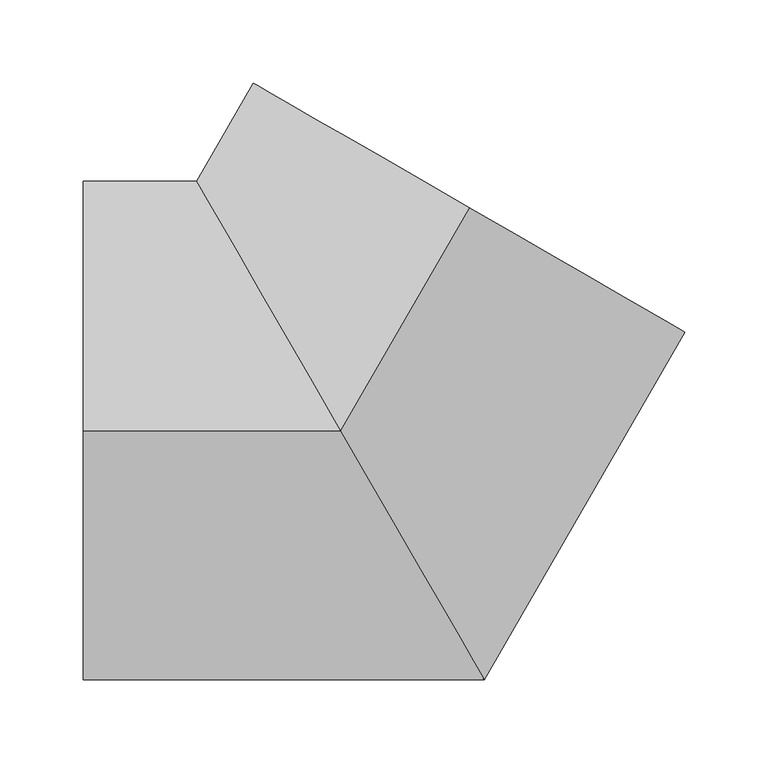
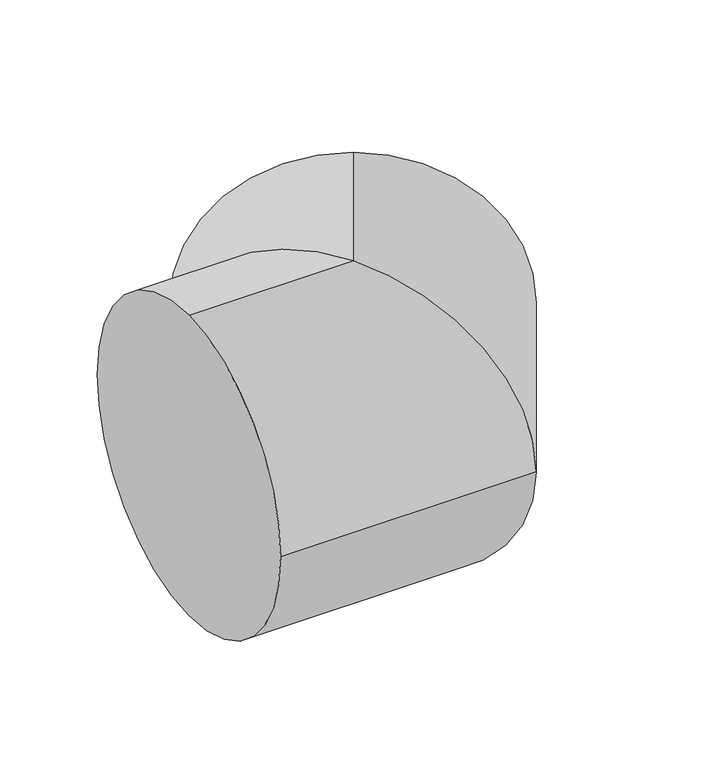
"""IFC4 building model written with IfcOpenShell, lengths in millimetres: duct fitting geometry, M_Отвод круглого сечения - Под углом : Стандартное."""

import ifcopenshell
import ifcopenshell.guid

model = None  # the IFC model being written
_history = None  # IfcOwnerHistory: only IFC2X3 demands one
_inside = {}  # id of a spatial element -> (the spatial element, [elements in it])
_under = {}  # id of a project, library or spatial element -> (it, [spatial elements below it])
_declared = {}  # id of a project -> (the project, [libraries it declares])
_typed = {}  # id of a type object -> (the type object, [elements of that type])
_made_of = {}  # id of a material, layer set ... -> (it, [elements and type objects made of it])


def new_model(schema):
    """Start an empty IFC model of exactly this schema.

    Asked for "IFC4X3", IfcOpenShell would pick the latest addendum, in which some entities
    have other attributes; the version numbers below select the first issue.
    IFC2X3 requires an IfcOwnerHistory on every rooted entity: one is made here for all.
    """
    global model, _history
    if schema == "IFC4X3":
        model = ifcopenshell.file(schema_version=(4, 3, 0, 0))
    else:
        model = ifcopenshell.file(schema=schema)
    _inside.clear()
    _under.clear()
    _declared.clear()
    _typed.clear()
    _made_of.clear()
    _history = None
    if model.schema == "IFC2X3":
        org = make("IfcOrganization", Name="unknown")
        user = make(
            "IfcPersonAndOrganization",
            ThePerson=make("IfcPerson", FamilyName="unknown"),
            TheOrganization=org,
        )
        app = make(
            "IfcApplication",
            ApplicationDeveloper=org,
            Version="unknown",
            ApplicationFullName="unknown",
            ApplicationIdentifier="unknown",
        )
        _history = make(
            "IfcOwnerHistory",
            OwningUser=user,
            OwningApplication=app,
            ChangeAction="ADDED",
            CreationDate=0,
        )
    return model


def make(cls, **values):
    """One entity of the class cls with the attributes given. An attribute that is None is left unset."""
    return model.create_entity(
        cls, **{name: value for name, value in values.items() if value is not None}
    )


def rooted(cls, **values):
    """An entity with a GlobalId (a new one), such as an element, a storey or a relation."""
    return make(cls, GlobalId=ifcopenshell.guid.new(), OwnerHistory=_history, **values)


def si_unit(unit_type, name, prefix=None):
    """IfcSIUnit, for example si_unit("LENGTHUNIT", "METRE", prefix="MILLI")."""
    return make("IfcSIUnit", UnitType=unit_type, Prefix=prefix, Name=name)


def assignment(units):
    """IfcUnitAssignment: the units of a project."""
    return None if units is None else make("IfcUnitAssignment", Units=units)


def point(xyz):
    """IfcCartesianPoint."""
    return None if xyz is None else make("IfcCartesianPoint", Coordinates=xyz)


def direction(xyz):
    """IfcDirection."""
    return None if xyz is None else make("IfcDirection", DirectionRatios=xyz)


def frame(location, z_axis=None, x_axis=None):
    """IfcAxis2Placement3D, a coordinate frame: its origin and axes. An axis left out is left unset."""
    return make(
        "IfcAxis2Placement3D",
        Location=point(location),
        Axis=direction(z_axis),
        RefDirection=direction(x_axis),
    )


def origin():
    """The frame at (0, 0, 0) with its axes left unset."""
    return frame((0.0, 0.0, 0.0))


def place(relative_to, where):
    """IfcLocalPlacement: puts the frame where relative to a parent placement (None: the world)."""
    return make(
        "IfcLocalPlacement", PlacementRelTo=relative_to, RelativePlacement=where
    )


def context(
    kind, dimensions, precision=None, world=None, true_north=None, identifier=None
):
    """IfcGeometricRepresentationContext, for example the 3D "Model" context."""
    return make(
        "IfcGeometricRepresentationContext",
        ContextIdentifier=identifier,
        ContextType=kind,
        CoordinateSpaceDimension=dimensions,
        Precision=precision,
        WorldCoordinateSystem=world,
        TrueNorth=true_north,
    )


def project(units=None, contexts=None):
    """IfcProject with its units and contexts."""
    return rooted(
        "IfcProject",
        Name="project",
        RepresentationContexts=contexts,
        UnitsInContext=assignment(units),
    )


def spatial(cls, under=None, at=None, **own):
    """A site, building, storey or space (cls), placed at a placement, below another one or the project."""
    s = rooted(cls, ObjectPlacement=at, **own)
    if under is not None:
        _under.setdefault(under.id(), (under, []))[1].append(s)
    return s


def circle_curve(where, radius):
    """IfcCircle in the frame where."""
    return make("IfcCircle", Position=where, Radius=radius)


def ellipse_curve(where, semi_axis1, semi_axis2):
    """IfcEllipse in the frame where."""
    return make(
        "IfcEllipse", Position=where, SemiAxis1=semi_axis1, SemiAxis2=semi_axis2
    )


def shape(context_of_items, identifier, shape_type, items):
    """IfcShapeRepresentation: the items that make up one representation, for example the "Body"."""
    return make(
        "IfcShapeRepresentation",
        ContextOfItems=context_of_items,
        RepresentationIdentifier=identifier,
        RepresentationType=shape_type,
        Items=items,
    )


def source(mapping_origin, context_of_items, identifier, shape_type, items):
    """IfcRepresentationMap: a shape defined once, which mapped items show again and again."""
    return make(
        "IfcRepresentationMap",
        MappingOrigin=mapping_origin,
        MappedRepresentation=shape(context_of_items, identifier, shape_type, items),
    )


def transform(
    local_origin,
    x_axis=None,
    y_axis=None,
    z_axis=None,
    scale=None,
    scale2=None,
    scale3=None,
    uniform=True,
):
    """IfcCartesianTransformationOperator3D, or its non-uniform kind. x_axis, y_axis, z_axis: its Axis1, 2, 3."""
    if uniform:
        return make(
            "IfcCartesianTransformationOperator3D",
            Axis1=direction(x_axis),
            Axis2=direction(y_axis),
            LocalOrigin=point(local_origin),
            Scale=scale,
            Axis3=direction(z_axis),
        )
    return make(
        "IfcCartesianTransformationOperator3DnonUniform",
        Axis1=direction(x_axis),
        Axis2=direction(y_axis),
        LocalOrigin=point(local_origin),
        Scale=scale,
        Axis3=direction(z_axis),
        Scale2=scale2,
        Scale3=scale3,
    )


def mapped(mapping_source, mapping_target):
    """IfcMappedItem: shows the shape of a source again, moved by a transform."""
    return make(
        "IfcMappedItem", MappingSource=mapping_source, MappingTarget=mapping_target
    )


def made_of(thing, what):
    """Note that an element or type object is made of a material, layer set ...; save() writes the relation."""
    if what is not None:
        _made_of.setdefault(what.id(), (what, []))[1].append(thing)
    return thing


def element(
    cls,
    number,
    at=None,
    inside=None,
    cuts=None,
    type_object=None,
    material=None,
    context=None,
    identifier="Body",
    shape_type=None,
    held_by="IfcProductDefinitionShape",
    body=None,
    shapes=None,
    **own,
):
    """One element of the class cls, such as IfcWall. Its Tag is "e" and its number.

    at: its placement. inside: the storey or other place that contains it. cuts: it is an
    opening in that element (IfcRelVoidsElement). A single representation is given by context,
    identifier, shape_type and body (its items); several are given by shapes. held_by: the class
    of the entity that holds the representations. save() writes the other relations.
    """
    e = rooted(cls, Tag="e%d" % number, ObjectPlacement=at, **own)
    if body is not None:
        shapes = [shape(context, identifier, shape_type, body)]
    if shapes is not None:
        e.Representation = make(held_by, Representations=shapes)
    if inside is not None:
        _inside.setdefault(inside.id(), (inside, []))[1].append(e)
    if cuts is not None:
        rooted(
            "IfcRelVoidsElement", RelatingBuildingElement=cuts, RelatedOpeningElement=e
        )
    if type_object is not None:
        _typed.setdefault(type_object.id(), (type_object, []))[1].append(e)
    return made_of(e, material)


def aggregate(whole, parts):
    """IfcRelAggregates: a whole, such as a stair, and the parts it consists of."""
    return rooted("IfcRelAggregates", RelatingObject=whole, RelatedObjects=parts)


def save(model, path):
    """Write the relations noted so far, then the file.

    IfcRelAggregates (storeys below a building ...), IfcRelContainedInSpatialStructure (elements
    in a storey), IfcRelDefinesByType, IfcRelAssociatesMaterial and IfcRelDeclares: one each for
    every whole, place, type object, material and project.
    """
    for whole, parts in _under.values():
        aggregate(whole, parts)
    for where, things in _inside.values():
        rooted(
            "IfcRelContainedInSpatialStructure",
            RelatedElements=things,
            RelatingStructure=where,
        )
    for kind, things in _typed.values():
        rooted("IfcRelDefinesByType", RelatedObjects=things, RelatingType=kind)
    for what, things in _made_of.values():
        rooted("IfcRelAssociatesMaterial", RelatedObjects=things, RelatingMaterial=what)
    for by, libraries in _declared.values():
        rooted("IfcRelDeclares", RelatingContext=by, RelatedDefinitions=libraries)
    model.write(path)


def plane_surface(at):
    """IfcPlane: the flat surface through the origin of the frame at, square to its z axis."""
    return make("IfcPlane", Position=at)


def cylinder_surface(at, radius):
    """IfcCylindricalSurface: all points at the distance radius from the z axis of the frame at."""
    return make("IfcCylindricalSurface", Position=at, Radius=radius)


def advanced_brep(points, edges, surfaces, faces):
    """IfcAdvancedBrep: a solid bounded by faces that lie on surfaces and meet in shared edges.

    An edge is (start, end): straight between two places in points (the first is 0);
    or (start, end, curve); or (start, end, curve, False) where it runs against its curve.
    A face is (place in surfaces, loops), or (place, loops, False) where it looks against
    its surface's normal. A loop lists edges by number (the first is 1), with a minus sign
    where the edge is run from its end to its start. The first loop is the outer one.
    """
    corners = [point(p) for p in points]
    vertices = [make("IfcVertexPoint", VertexGeometry=c) for c in corners]
    made = []
    for start, end, *more in edges:
        made.append(
            make(
                "IfcEdgeCurve",
                EdgeStart=vertices[start],
                EdgeEnd=vertices[end],
                EdgeGeometry=more[0] if more else make("IfcPolyline", Points=[corners[start], corners[end]]),
                SameSense=more[1] if len(more) > 1 else True,
            )
        )
    hull = []
    for where, loops, *sense in faces:
        bounds = []
        for j, loop in enumerate(loops):
            ring = [make("IfcOrientedEdge", EdgeElement=made[abs(k) - 1], Orientation=k > 0) for k in loop]
            bounds.append(
                make(
                    "IfcFaceOuterBound" if j == 0 else "IfcFaceBound",
                    Bound=make("IfcEdgeLoop", EdgeList=ring),
                    Orientation=True,
                )
            )
        hull.append(make("IfcAdvancedFace", Bounds=bounds, FaceSurface=surfaces[where], SameSense=sense[0] if sense else True))
    return make("IfcAdvancedBrep", Outer=make("IfcClosedShell", CfsFaces=hull))


def duct_fitting_fdeae395(model_context):
    return source(origin(), model_context, "Body", "AdvancedBrep", [
        advanced_brep(
        [(-154.9038106, 0.0, 150.0), (-154.9038106, 150.0, 0.0), (-154.9038106, 0.0, -150.0), (-154.9038106, -150.0, 0.0), (0.0, 0.0, 150.0), (-86.6025404, 150.0, 0.0), (0.0, 0.0, -150.0), (86.6025404, -150.0, 0.0), (77.4519053, 134.1506351, 150.0), (207.3557159, 59.1506351, 0.0), (77.4519053, 134.1506351, -150.0), (-52.4519053, 209.1506351, 0.0)],
        [
            (0, 1, circle_curve(frame((-154.9038106, 0.0, 0.0), z_axis=(-1.0, 0.0, 0.0), x_axis=(0.0, 1.0, 0.0)), 150.0)),
            (1, 2, circle_curve(frame((-154.9038106, 0.0, 0.0), z_axis=(-1.0, 0.0, 0.0), x_axis=(0.0, 1.0, 0.0)), 150.0)),
            (2, 3, circle_curve(frame((-154.9038106, 0.0, 0.0), z_axis=(-1.0, 0.0, 0.0), x_axis=(0.0, 1.0, 0.0)), 150.0)),
            (3, 0, circle_curve(frame((-154.9038106, 0.0, 0.0), z_axis=(-1.0, 0.0, 0.0), x_axis=(0.0, 1.0, 0.0)), 150.0)),
            (0, 4),
            (4, 5, ellipse_curve(frame((0.0, 0.0, 0.0), z_axis=(-0.8660254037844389, -0.49999999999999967, 0.0), x_axis=(-0.49999999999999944, 0.8660254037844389, 0.0)), 173.2050808, 150.0)),
            (5, 1),
            (5, 6, ellipse_curve(frame((0.0, 0.0, 0.0), z_axis=(-0.8660254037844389, -0.49999999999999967, 0.0), x_axis=(-0.49999999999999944, 0.8660254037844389, 0.0)), 173.2050808, 150.0)),
            (6, 2),
            (6, 7, ellipse_curve(frame((0.0, 0.0, 0.0), z_axis=(-0.8660254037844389, -0.49999999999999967, 0.0), x_axis=(-0.49999999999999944, 0.8660254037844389, 0.0)), 173.2050808, 150.0)),
            (7, 3),
            (7, 4, ellipse_curve(frame((0.0, 0.0, 0.0), z_axis=(-0.8660254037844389, -0.49999999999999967, 0.0), x_axis=(-0.49999999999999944, 0.8660254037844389, 0.0)), 173.2050808, 150.0)),
            (8, 9, circle_curve(frame((77.4519053, 134.1506351, 0.0), z_axis=(0.500000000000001, 0.8660254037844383, 0.0), x_axis=(-0.866025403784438, 0.5000000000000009, 0.0)), 150.0)),
            (9, 10, circle_curve(frame((77.4519053, 134.1506351, 0.0), z_axis=(0.500000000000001, 0.8660254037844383, 0.0), x_axis=(-0.866025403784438, 0.5000000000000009, 0.0)), 150.0)),
            (10, 11, circle_curve(frame((77.4519053, 134.1506351, 0.0), z_axis=(0.500000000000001, 0.8660254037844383, 0.0), x_axis=(-0.866025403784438, 0.5000000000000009, 0.0)), 150.0)),
            (11, 8, circle_curve(frame((77.4519053, 134.1506351, 0.0), z_axis=(0.500000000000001, 0.8660254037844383, 0.0), x_axis=(-0.866025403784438, 0.5000000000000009, 0.0)), 150.0)),
            (4, 8),
            (11, 5),
            (10, 6),
            (9, 7),
        ],
        [
            plane_surface(frame((-154.9038106, 0.0, 0.0), z_axis=(-1.0, 0.0, 0.0), x_axis=(0.0, 0.0, 1.0))),
            cylinder_surface(frame((-154.9038106, 0.0, 0.0), z_axis=(-1.0, 0.0, 0.0), x_axis=(0.0, 1.0, 0.0)), 150.0),
            plane_surface(frame((77.4519053, 134.1506351, 0.0), z_axis=(0.5000000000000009, 0.8660254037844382, 0.0), x_axis=(0.0, 0.0, 1.0))),
            cylinder_surface(frame((0.0, 0.0, 0.0), z_axis=(-0.5000000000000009, -0.866025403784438, 0.0), x_axis=(-0.866025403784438, 0.5000000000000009, 0.0)), 150.0),
        ],
        [
            (0, [[1, 2, 3, 4]]),
            (1, [[-1, 5, 6, 7]]),
            (1, [[-2, -7, 8, 9]]),
            (1, [[-3, -9, 10, 11]]),
            (1, [[-4, -11, 12, -5]]),
            (2, [[13, 14, 15, 16]]),
            (3, [[-6, 17, -16, 18]]),
            (3, [[-8, -18, -15, 19]]),
            (3, [[-10, -19, -14, 20]]),
            (3, [[-12, -20, -13, -17]]),
        ],
    ),
    ])


if __name__ == "__main__":
    model = new_model("IFC4")
    model_context = context("Model", 3, world=origin())
    ifc_project = project(units=[si_unit("LENGTHUNIT", "METRE", prefix="MILLI")], contexts=[model_context])
    site = spatial("IfcSite", under=ifc_project)
    building = spatial("IfcBuilding", under=site)
    placement = place(None, origin())
    duct_fitting_shape = duct_fitting_fdeae395(model_context)
    element("IfcDuctFitting", 1, ObjectType="M_Отвод круглого сечения - Под углом : Стандартное", at=placement, inside=building, context=model_context, shape_type="MappedRepresentation", body=[
        mapped(duct_fitting_shape, transform((0.0, 0.0, 0.0), x_axis=(1.0, 0.0, 0.0), y_axis=(0.0, 1.0, 0.0), z_axis=(0.0, 0.0, 1.0))),
    ])
    save(model, "model.ifc")
